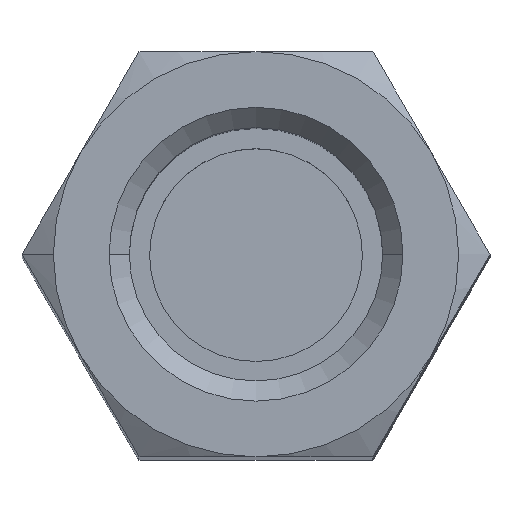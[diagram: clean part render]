
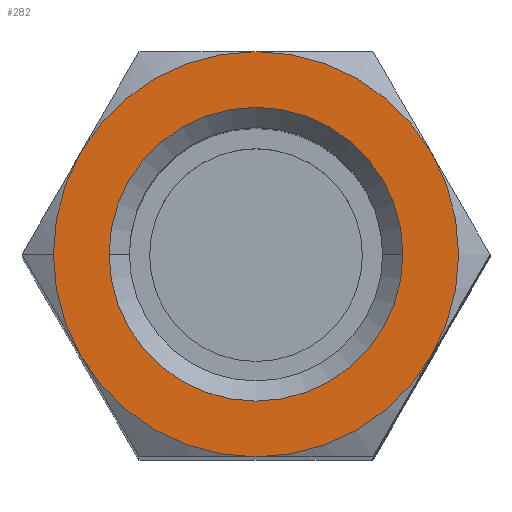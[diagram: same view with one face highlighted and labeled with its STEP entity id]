
A CAD part, top view. The second image highlights one B-rep face of the part: STEP entity #282.
In plain terms, the highlighted planar face has unit normal (0, 0, 1).
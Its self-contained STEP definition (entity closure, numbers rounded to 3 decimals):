
#16 = DIRECTION ( 'NONE',  ( -1., 0., 0. ) ) ;
#26 = ORIENTED_EDGE ( 'NONE', *, *, #851, .T. ) ;
#33 = ORIENTED_EDGE ( 'NONE', *, *, #173, .T. ) ;
#54 = AXIS2_PLACEMENT_3D ( 'NONE', #938, #1002, #1010 ) ;
#56 = EDGE_CURVE ( 'NONE', #167, #870, #718, .T. ) ;
#66 = CARTESIAN_POINT ( 'NONE',  ( -3.464, -2., 20. ) ) ;
#80 = ORIENTED_EDGE ( 'NONE', *, *, #101, .T. ) ;
#92 = CARTESIAN_POINT ( 'NONE',  ( 0., 0., 20. ) ) ;
#101 = EDGE_CURVE ( 'NONE', #870, #424, #488, .T. ) ;
#111 = DIRECTION ( 'NONE',  ( 0., 0., 1. ) ) ;
#112 = CARTESIAN_POINT ( 'NONE',  ( 3.464, -2., 20. ) ) ;
#125 = CIRCLE ( 'NONE', #54, 4. ) ;
#140 = AXIS2_PLACEMENT_3D ( 'NONE', #586, #111, #1042 ) ;
#161 = CARTESIAN_POINT ( 'NONE',  ( 0., 0., 20. ) ) ;
#165 = EDGE_CURVE ( 'NONE', #928, #636, #215, .T. ) ;
#167 = VERTEX_POINT ( 'NONE', #66 ) ;
#173 = EDGE_CURVE ( 'NONE', #636, #928, #756, .T. ) ;
#182 = CARTESIAN_POINT ( 'NONE',  ( 3.464, 2., 20. ) ) ;
#183 = AXIS2_PLACEMENT_3D ( 'NONE', #539, #891, #526 ) ;
#194 = DIRECTION ( 'NONE',  ( -1., 0., 0. ) ) ;
#196 = CARTESIAN_POINT ( 'NONE',  ( 0., 0., 20. ) ) ;
#197 = ORIENTED_EDGE ( 'NONE', *, *, #165, .T. ) ;
#215 = CIRCLE ( 'NONE', #641, 2.9 ) ;
#249 = FACE_BOUND ( 'NONE', #805, .T. ) ;
#282 = ADVANCED_FACE ( 'NONE', ( #249, #422 ), #779, .F. ) ;
#323 = DIRECTION ( 'NONE',  ( 0., 0., -1. ) ) ;
#375 = CARTESIAN_POINT ( 'NONE',  ( 0., 0., 20. ) ) ;
#383 = EDGE_CURVE ( 'NONE', #537, #568, #1039, .T. ) ;
#388 = DIRECTION ( 'NONE',  ( -1., 0., 0. ) ) ;
#389 = CARTESIAN_POINT ( 'NONE',  ( 0., 4., 20. ) ) ;
#392 = CARTESIAN_POINT ( 'NONE',  ( 2.9, 0., 20. ) ) ;
#422 = FACE_OUTER_BOUND ( 'NONE', #969, .T. ) ;
#424 = VERTEX_POINT ( 'NONE', #112 ) ;
#425 = DIRECTION ( 'NONE',  ( -1., 0., 0. ) ) ;
#426 = DIRECTION ( 'NONE',  ( 0., 0., -1. ) ) ;
#441 = VERTEX_POINT ( 'NONE', #182 ) ;
#449 = ORIENTED_EDGE ( 'NONE', *, *, #1117, .T. ) ;
#488 = CIRCLE ( 'NONE', #140, 4. ) ;
#509 = CARTESIAN_POINT ( 'NONE',  ( 0., 0., 20. ) ) ;
#511 = CIRCLE ( 'NONE', #757, 4. ) ;
#526 = DIRECTION ( 'NONE',  ( 1., 0., 0. ) ) ;
#534 = DIRECTION ( 'NONE',  ( 0., 0., 1. ) ) ;
#537 = VERTEX_POINT ( 'NONE', #674 ) ;
#539 = CARTESIAN_POINT ( 'NONE',  ( 0., 0., 20. ) ) ;
#555 = ORIENTED_EDGE ( 'NONE', *, *, #675, .T. ) ;
#568 = VERTEX_POINT ( 'NONE', #389 ) ;
#586 = CARTESIAN_POINT ( 'NONE',  ( 0., 0., 20. ) ) ;
#588 = AXIS2_PLACEMENT_3D ( 'NONE', #92, #534, #194 ) ;
#590 = CARTESIAN_POINT ( 'NONE',  ( -2.9, 0., 20. ) ) ;
#636 = VERTEX_POINT ( 'NONE', #590 ) ;
#641 = AXIS2_PLACEMENT_3D ( 'NONE', #161, #323, #704 ) ;
#646 = DIRECTION ( 'NONE',  ( 0., 0., 1. ) ) ;
#655 = EDGE_CURVE ( 'NONE', #962, #167, #852, .T. ) ;
#674 = CARTESIAN_POINT ( 'NONE',  ( -3.464, 2., 20. ) ) ;
#675 = EDGE_CURVE ( 'NONE', #441, #568, #511, .T. ) ;
#690 = ORIENTED_EDGE ( 'NONE', *, *, #56, .T. ) ;
#704 = DIRECTION ( 'NONE',  ( -1., 0., 0. ) ) ;
#717 = CARTESIAN_POINT ( 'NONE',  ( 0., -4., 20. ) ) ;
#718 = CIRCLE ( 'NONE', #1015, 4. ) ;
#756 = CIRCLE ( 'NONE', #792, 2.9 ) ;
#757 = AXIS2_PLACEMENT_3D ( 'NONE', #1131, #1140, #783 ) ;
#779 = PLANE ( 'NONE',  #183 ) ;
#783 = DIRECTION ( 'NONE',  ( -1., 0., 0. ) ) ;
#792 = AXIS2_PLACEMENT_3D ( 'NONE', #949, #426, #959 ) ;
#805 = EDGE_LOOP ( 'NONE', ( #197, #33 ) ) ;
#807 = DIRECTION ( 'NONE',  ( 0., 0., -1. ) ) ;
#821 = CARTESIAN_POINT ( 'NONE',  ( -4., 0., 20. ) ) ;
#847 = ORIENTED_EDGE ( 'NONE', *, *, #383, .F. ) ;
#851 = EDGE_CURVE ( 'NONE', #424, #441, #889, .T. ) ;
#852 = CIRCLE ( 'NONE', #1018, 4. ) ;
#862 = DIRECTION ( 'NONE',  ( 0., 0., 1. ) ) ;
#870 = VERTEX_POINT ( 'NONE', #717 ) ;
#889 = CIRCLE ( 'NONE', #588, 4. ) ;
#891 = DIRECTION ( 'NONE',  ( 0., 0., -1. ) ) ;
#923 = ORIENTED_EDGE ( 'NONE', *, *, #655, .T. ) ;
#928 = VERTEX_POINT ( 'NONE', #392 ) ;
#938 = CARTESIAN_POINT ( 'NONE',  ( 0., 0., 20. ) ) ;
#949 = CARTESIAN_POINT ( 'NONE',  ( 0., 0., 20. ) ) ;
#959 = DIRECTION ( 'NONE',  ( -1., 0., 0. ) ) ;
#962 = VERTEX_POINT ( 'NONE', #821 ) ;
#969 = EDGE_LOOP ( 'NONE', ( #449, #923, #690, #80, #26, #555, #847 ) ) ;
#1002 = DIRECTION ( 'NONE',  ( 0., 0., 1. ) ) ;
#1010 = DIRECTION ( 'NONE',  ( -1., 0., 0. ) ) ;
#1015 = AXIS2_PLACEMENT_3D ( 'NONE', #375, #646, #388 ) ;
#1018 = AXIS2_PLACEMENT_3D ( 'NONE', #509, #862, #425 ) ;
#1039 = CIRCLE ( 'NONE', #1126, 4. ) ;
#1042 = DIRECTION ( 'NONE',  ( -1., 0., 0. ) ) ;
#1117 = EDGE_CURVE ( 'NONE', #537, #962, #125, .T. ) ;
#1126 = AXIS2_PLACEMENT_3D ( 'NONE', #196, #807, #16 ) ;
#1131 = CARTESIAN_POINT ( 'NONE',  ( 0., 0., 20. ) ) ;
#1140 = DIRECTION ( 'NONE',  ( 0., 0., 1. ) ) ;
